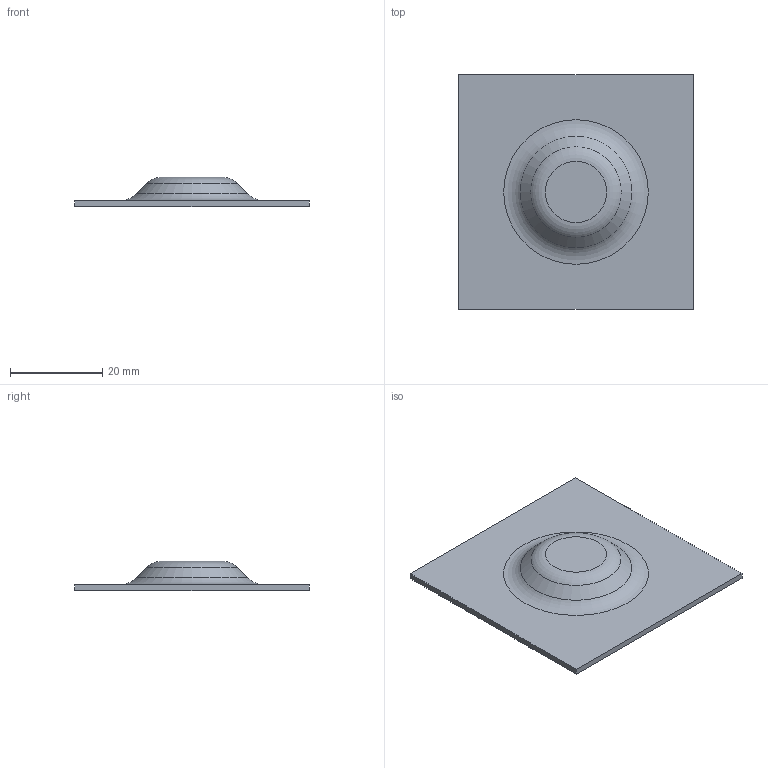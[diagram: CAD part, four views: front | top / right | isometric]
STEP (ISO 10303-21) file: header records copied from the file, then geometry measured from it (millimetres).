
FILE_DESCRIPTION((''),'1');
FILE_NAME('C:/Users/robertnolte/Desktop/WT#764938-80.stp','2012-03-30T00:57:40',(''),(''),'Spatial Interop R21 SP3','Kubotek KeyCreator 2011 V10.5.0 (24766)',' ');
FILE_SCHEMA(('CONFIG_CONTROL_DESIGN'));
Length unit declared in the file: inch
Products named in the file (1): 1
Bounding box: 50.8 x 50.8 x 6.35 mm (x, y, z)
Volume: 3422 mm3; surface area: 5647.1 mm2
Topology: 1 solids, 1 shells, 14 faces, 28 edges, 18 vertices
Faces by surface type: plane 8, torus 4, cone 2
Entity records: 360 total; most frequent: DIRECTION 58, CARTESIAN_POINT 51, ORIENTED_EDGE 40, AXIS2_PLACEMENT_3D 23, EDGE_LOOP 22, EDGE_CURVE 20, VERTEX_POINT 16, ADVANCED_FACE 14
